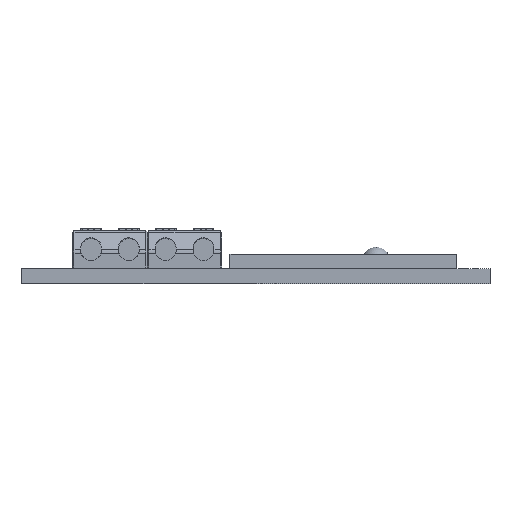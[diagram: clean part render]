
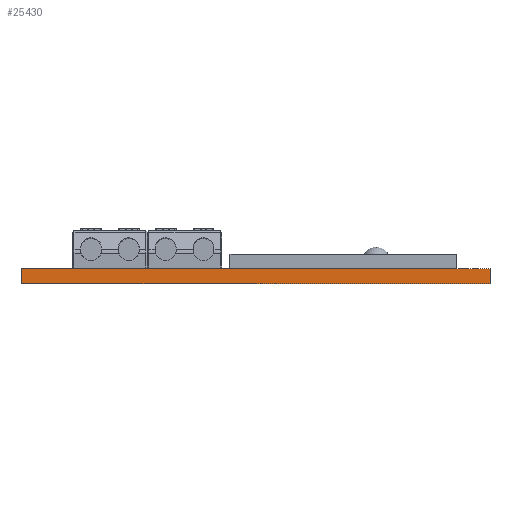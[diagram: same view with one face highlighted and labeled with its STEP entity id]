
A CAD part, left-side view. The second image highlights one B-rep face of the part: STEP entity #25430.
In plain terms, the highlighted planar face has unit normal (-1, 0, 0).
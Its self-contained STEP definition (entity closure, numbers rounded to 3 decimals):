
#860=LINE('',#38030,#3354);
#2647=LINE('',#45301,#5141);
#2648=LINE('',#45304,#5142);
#2649=LINE('',#45305,#5143);
#3354=VECTOR('',#28595,10.);
#5141=VECTOR('',#33182,10.);
#5142=VECTOR('',#33185,10.);
#5143=VECTOR('',#33186,10.);
#7552=FACE_OUTER_BOUND('',#9057,.T.);
#9057=EDGE_LOOP('',(#22416,#22417,#22418,#22419));
#10418=VERTEX_POINT('',#38023);
#10421=VERTEX_POINT('',#38028);
#11957=VERTEX_POINT('',#45299);
#11958=VERTEX_POINT('',#45303);
#13097=EDGE_CURVE('',#10421,#10418,#860,.T.);
#15460=EDGE_CURVE('',#10421,#11957,#2647,.T.);
#15461=EDGE_CURVE('',#11958,#11957,#2648,.T.);
#15462=EDGE_CURVE('',#10418,#11958,#2649,.T.);
#22416=ORIENTED_EDGE('',*,*,#13097,.F.);
#22417=ORIENTED_EDGE('',*,*,#15460,.T.);
#22418=ORIENTED_EDGE('',*,*,#15461,.F.);
#22419=ORIENTED_EDGE('',*,*,#15462,.F.);
#23286=PLANE('',#27217);
#25430=ADVANCED_FACE('',(#7552),#23286,.T.);
#27217=AXIS2_PLACEMENT_3D('',#45302,#33183,#33184);
#28595=DIRECTION('',(0.,-1.,0.));
#33182=DIRECTION('',(0.,0.,-1.));
#33183=DIRECTION('center_axis',(-1.,0.,0.));
#33184=DIRECTION('ref_axis',(0.,1.,0.));
#33185=DIRECTION('',(0.,1.,0.));
#33186=DIRECTION('',(0.,0.,-1.));
#38023=CARTESIAN_POINT('',(0.,0.,0.));
#38028=CARTESIAN_POINT('',(0.,49.5,0.));
#38030=CARTESIAN_POINT('',(0.,49.5,0.));
#45299=CARTESIAN_POINT('',(0.,49.5,-1.6));
#45301=CARTESIAN_POINT('',(0.,49.5,0.));
#45302=CARTESIAN_POINT('Origin',(0.,0.,0.));
#45303=CARTESIAN_POINT('',(0.,0.,-1.6));
#45304=CARTESIAN_POINT('',(0.,49.5,-1.6));
#45305=CARTESIAN_POINT('',(0.,0.,0.));
